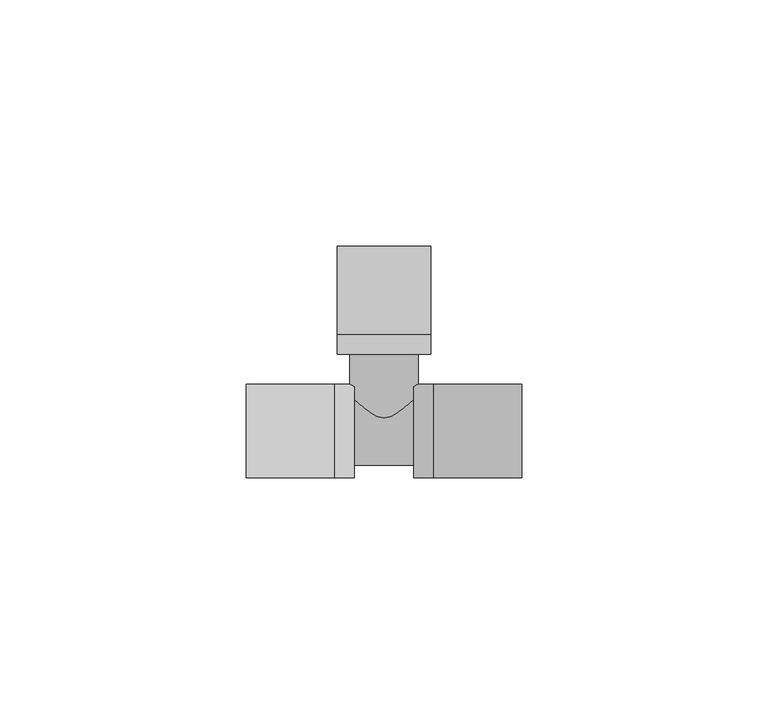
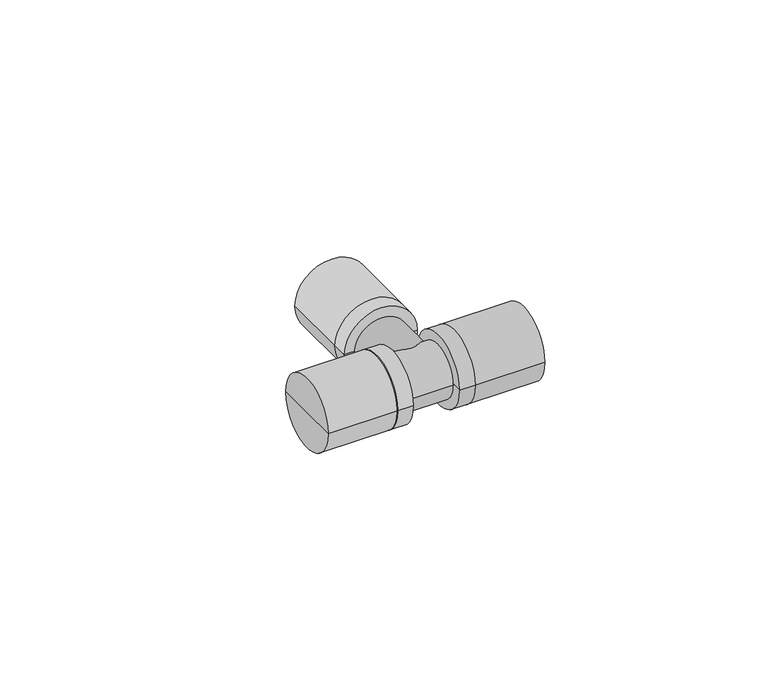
"""IFC4 building model written with IfcOpenShell, lengths in millimetres: pipe fitting geometry, KAN-therm Push trójnik : KAN-therm Push trójnik."""

from ifc_helpers import new_model, si_unit, frame, origin, place, context, project, spatial, circle_curve, source, transform, mapped, element, save
from ifc_brep_helpers import plane_surface, cylinder_surface, advanced_brep


def pipe_fitting_d28a4c85(model_context):
    return source(origin(), model_context, "Body", "AdvancedBrep", [
        advanced_brep(
        [(-9.5, 19.5, 0.0), (0.0, 19.5, 0.0), (9.5, 19.5, 0.0), (-9.5, 15.5, 0.0), (9.5, 15.5, 0.0), (0.0, 15.5, 0.0)],
        [
            (0, 1),
            (1, 2),
            (2, 0, circle_curve(frame((0.0, 19.5, 0.0), z_axis=(0.0, 1.0, 0.0), x_axis=(1.0000000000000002, 0.0, 0.0)), 9.5)),
            (0, 2, circle_curve(frame((0.0, 19.5, 0.0), z_axis=(0.0, 1.0, 0.0), x_axis=(1.0000000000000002, 0.0, 0.0)), 9.5)),
            (3, 0),
            (2, 4),
            (4, 3, circle_curve(frame((0.0, 15.5, 0.0), z_axis=(0.0, 1.0, 0.0), x_axis=(1.0000000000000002, 0.0, 0.0)), 9.5)),
            (3, 4, circle_curve(frame((0.0, 15.5, 0.0), z_axis=(0.0, 1.0, 0.0), x_axis=(1.0000000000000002, 0.0, 0.0)), 9.5)),
            (5, 3),
            (4, 5),
        ],
        [
            plane_surface(frame((0.0, 19.5, 0.0), z_axis=(0.0, 1.0, 0.0), x_axis=(1.0, 0.0, 0.0))),
            cylinder_surface(frame((0.0, 2014.5, 0.0), z_axis=(0.0, -1.0000000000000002, 0.0), x_axis=(1.0000000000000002, 0.0, 0.0)), 9.5),
            plane_surface(frame((0.0, 15.5, 0.0), z_axis=(0.0, -1.0, 0.0), x_axis=(1.0, 0.0, 0.0))),
        ],
        [
            (0, [[1, 2, 3]]),
            (0, [[-2, -1, 4]]),
            (1, [[5, -3, 6, 7]]),
            (1, [[-6, -4, -5, 8]]),
            (2, [[9, -7, 10]]),
            (2, [[-10, -8, -9]]),
        ],
    ),
        advanced_brep(
        [(-9.5, 37.5, 0.0), (0.0, 37.5, 0.0), (9.5, 37.5, 0.0), (-9.5, 19.5, 0.0), (9.5, 19.5, 0.0), (0.0, 19.5, 0.0)],
        [
            (0, 1),
            (1, 2),
            (2, 0, circle_curve(frame((0.0, 37.5, 0.0), z_axis=(0.0, 1.0, 0.0), x_axis=(1.0000000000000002, 0.0, 0.0)), 9.5)),
            (0, 2, circle_curve(frame((0.0, 37.5, 0.0), z_axis=(0.0, 1.0, 0.0), x_axis=(1.0000000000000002, 0.0, 0.0)), 9.5)),
            (3, 0),
            (2, 4),
            (4, 3, circle_curve(frame((0.0, 19.5, 0.0), z_axis=(0.0, 1.0, 0.0), x_axis=(1.0000000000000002, 0.0, 0.0)), 9.5)),
            (3, 4, circle_curve(frame((0.0, 19.5, 0.0), z_axis=(0.0, 1.0, 0.0), x_axis=(1.0000000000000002, 0.0, 0.0)), 9.5)),
            (5, 3),
            (4, 5),
        ],
        [
            plane_surface(frame((0.0, 37.5, 0.0), z_axis=(0.0, 1.0, 0.0), x_axis=(1.0, 0.0, 0.0))),
            cylinder_surface(frame((0.0, 2014.5, 0.0), z_axis=(0.0, -1.0000000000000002, 0.0), x_axis=(1.0000000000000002, 0.0, 0.0)), 9.5),
            plane_surface(frame((0.0, 19.5, 0.0), z_axis=(0.0, -1.0, 0.0), x_axis=(1.0, 0.0, 0.0))),
        ],
        [
            (0, [[1, 2, 3]]),
            (0, [[-2, -1, 4]]),
            (1, [[5, -3, 6, 7]]),
            (1, [[-6, -4, -5, 8]]),
            (2, [[9, -7, 10]]),
            (2, [[-10, -8, -9]]),
        ],
    ),
        advanced_brep(
        [(-10.0, -9.5, 0.0), (-10.0, 0.0, 0.0), (-10.0, 9.5, 0.0), (-6.0, -9.5, 0.0), (-6.0, 9.5, 0.0), (-6.0, 0.0, 0.0)],
        [
            (0, 1),
            (1, 2),
            (2, 0, circle_curve(frame((-10.0, 0.0, 0.0), z_axis=(-1.0, 0.0, 0.0), x_axis=(0.0, 1.0, 0.0)), 9.5)),
            (0, 2, circle_curve(frame((-10.0, 0.0, 0.0), z_axis=(-1.0, 0.0, 0.0), x_axis=(0.0, 1.0, 0.0)), 9.5)),
            (3, 0),
            (2, 4),
            (4, 3, circle_curve(frame((-6.0, 0.0, 0.0), z_axis=(-1.0, 0.0, 0.0), x_axis=(0.0, 1.0, 0.0)), 9.5)),
            (3, 4, circle_curve(frame((-6.0, 0.0, 0.0), z_axis=(-1.0, 0.0, 0.0), x_axis=(0.0, 1.0, 0.0)), 9.5)),
            (5, 3),
            (4, 5),
        ],
        [
            plane_surface(frame((-10.0, 0.0, 0.0), z_axis=(-1.0, 0.0, 0.0), x_axis=(0.0, 1.0, 0.0))),
            cylinder_surface(frame((-2005.0, 0.0, 0.0), z_axis=(1.0, 0.0, 0.0), x_axis=(0.0, 1.0, 0.0)), 9.5),
            plane_surface(frame((-6.0, 0.0, 0.0), z_axis=(1.0, 0.0, 0.0), x_axis=(0.0, 1.0, 0.0))),
        ],
        [
            (0, [[1, 2, 3]]),
            (0, [[-2, -1, 4]]),
            (1, [[5, -3, 6, 7]]),
            (1, [[-6, -4, -5, 8]]),
            (2, [[9, -7, 10]]),
            (2, [[-10, -8, -9]]),
        ],
    ),
        advanced_brep(
        [(-28.0, -9.5, 0.0), (-28.0, 0.0, 0.0), (-28.0, 9.5, 0.0), (-10.0, -9.5, 0.0), (-10.0, 9.5, 0.0), (-10.0, 0.0, 0.0)],
        [
            (0, 1),
            (1, 2),
            (2, 0, circle_curve(frame((-28.0, 0.0, 0.0), z_axis=(-1.0, 0.0, 0.0), x_axis=(0.0, 1.0, 0.0)), 9.5)),
            (0, 2, circle_curve(frame((-28.0, 0.0, 0.0), z_axis=(-1.0, 0.0, 0.0), x_axis=(0.0, 1.0, 0.0)), 9.5)),
            (3, 0),
            (2, 4),
            (4, 3, circle_curve(frame((-10.0, 0.0, 0.0), z_axis=(-1.0, 0.0, 0.0), x_axis=(0.0, 1.0, 0.0)), 9.5)),
            (3, 4, circle_curve(frame((-10.0, 0.0, 0.0), z_axis=(-1.0, 0.0, 0.0), x_axis=(0.0, 1.0, 0.0)), 9.5)),
            (5, 3),
            (4, 5),
        ],
        [
            plane_surface(frame((-28.0, 0.0, 0.0), z_axis=(-1.0, 0.0, 0.0), x_axis=(0.0, 1.0, 0.0))),
            cylinder_surface(frame((-2005.0, 0.0, 0.0), z_axis=(1.0, 0.0, 0.0), x_axis=(0.0, 1.0, 0.0)), 9.5),
            plane_surface(frame((-10.0, 0.0, 0.0), z_axis=(1.0, 0.0, 0.0), x_axis=(0.0, 1.0, 0.0))),
        ],
        [
            (0, [[1, 2, 3]]),
            (0, [[-2, -1, 4]]),
            (1, [[5, -3, 6, 7]]),
            (1, [[-6, -4, -5, 8]]),
            (2, [[9, -7, 10]]),
            (2, [[-10, -8, -9]]),
        ],
    ),
        advanced_brep(
        [(10.0, -9.5, 0.0), (10.0, 9.5, 0.0), (10.0, 0.0, 0.0), (6.0, -9.5, 0.0), (6.0, 9.5, 0.0), (6.0, 0.0, 0.0)],
        [
            (0, 1, circle_curve(frame((10.0, 0.0, 0.0), z_axis=(1.0, 0.0, 0.0), x_axis=(0.0, 1.0, 0.0)), 9.5)),
            (1, 2),
            (2, 0),
            (1, 0, circle_curve(frame((10.0, 0.0, 0.0), z_axis=(1.0, 0.0, 0.0), x_axis=(0.0, 1.0, 0.0)), 9.5)),
            (3, 4, circle_curve(frame((6.0, 0.0, 0.0), z_axis=(1.0, 0.0, 0.0), x_axis=(0.0, 1.0, 0.0)), 9.5)),
            (4, 1),
            (0, 3),
            (4, 3, circle_curve(frame((6.0, 0.0, 0.0), z_axis=(1.0, 0.0, 0.0), x_axis=(0.0, 1.0, 0.0)), 9.5)),
            (5, 4),
            (3, 5),
        ],
        [
            plane_surface(frame((10.0, 0.0, 0.0), z_axis=(1.0, 0.0, 0.0), x_axis=(0.0, 1.0, 0.0))),
            cylinder_surface(frame((2005.0, 0.0, 0.0), z_axis=(-1.0, 0.0, 0.0), x_axis=(0.0, 1.0, 0.0)), 9.5),
            plane_surface(frame((6.0, 0.0, 0.0), z_axis=(-1.0, 0.0, 0.0), x_axis=(0.0, 1.0, 0.0))),
        ],
        [
            (0, [[1, 2, 3]]),
            (0, [[4, -3, -2]]),
            (1, [[5, 6, -1, 7]]),
            (1, [[8, -7, -4, -6]]),
            (2, [[9, -5, 10]]),
            (2, [[-10, -8, -9]]),
        ],
    ),
        advanced_brep(
        [(28.0, -9.5, 0.0), (28.0, 9.5, 0.0), (28.0, 0.0, 0.0), (10.0, -9.5, 0.0), (10.0, 9.5, 0.0), (10.0, 0.0, 0.0)],
        [
            (0, 1, circle_curve(frame((28.0, 0.0, 0.0), z_axis=(1.0, 0.0, 0.0), x_axis=(0.0, 1.0, 0.0)), 9.5)),
            (1, 2),
            (2, 0),
            (1, 0, circle_curve(frame((28.0, 0.0, 0.0), z_axis=(1.0, 0.0, 0.0), x_axis=(0.0, 1.0, 0.0)), 9.5)),
            (3, 4, circle_curve(frame((10.0, 0.0, 0.0), z_axis=(1.0, 0.0, 0.0), x_axis=(0.0, 1.0, 0.0)), 9.5)),
            (4, 1),
            (0, 3),
            (4, 3, circle_curve(frame((10.0, 0.0, 0.0), z_axis=(1.0, 0.0, 0.0), x_axis=(0.0, 1.0, 0.0)), 9.5)),
            (5, 4),
            (3, 5),
        ],
        [
            plane_surface(frame((28.0, 0.0, 0.0), z_axis=(1.0, 0.0, 0.0), x_axis=(0.0, 1.0, 0.0))),
            cylinder_surface(frame((2005.0, 0.0, 0.0), z_axis=(-1.0, 0.0, 0.0), x_axis=(0.0, 1.0, 0.0)), 9.5),
            plane_surface(frame((10.0, 0.0, 0.0), z_axis=(-1.0, 0.0, 0.0), x_axis=(0.0, 1.0, 0.0))),
        ],
        [
            (0, [[1, 2, 3]]),
            (0, [[4, -3, -2]]),
            (1, [[5, 6, -1, 7]]),
            (1, [[8, -7, -4, -6]]),
            (2, [[9, -5, 10]]),
            (2, [[-10, -8, -9]]),
        ],
    ),
        advanced_brep(
        [(10.0, -7.0, 0.0), (10.0, 7.0, 0.0), (10.0, 0.0, 0.0), (-10.0, -7.0, 0.0), (-10.0, 7.0, 0.0), (-10.0, 0.0, 0.0)],
        [
            (0, 1, circle_curve(frame((10.0, 0.0, 0.0), z_axis=(1.0, 0.0, 0.0), x_axis=(0.0, 1.0, 0.0)), 7.0)),
            (1, 2),
            (2, 0),
            (1, 0, circle_curve(frame((10.0, 0.0, 0.0), z_axis=(1.0, 0.0, 0.0), x_axis=(0.0, 1.0, 0.0)), 7.0)),
            (3, 4, circle_curve(frame((-10.0, 0.0, 0.0), z_axis=(1.0, 0.0, 0.0), x_axis=(0.0, 1.0, 0.0)), 7.0)),
            (4, 1),
            (0, 3),
            (4, 3, circle_curve(frame((-10.0, 0.0, 0.0), z_axis=(1.0, 0.0, 0.0), x_axis=(0.0, 1.0, 0.0)), 7.0)),
            (5, 4),
            (3, 5),
        ],
        [
            plane_surface(frame((10.0, 0.0, 0.0), z_axis=(1.0, 0.0, 0.0), x_axis=(0.0, 1.0, 0.0))),
            cylinder_surface(frame((1997.5, 0.0, 0.0), z_axis=(-1.0, 0.0, 0.0), x_axis=(0.0, 1.0, 0.0)), 7.0),
            plane_surface(frame((-10.0, 0.0, 0.0), z_axis=(-1.0, 0.0, 0.0), x_axis=(0.0, 1.0, 0.0))),
        ],
        [
            (0, [[1, 2, 3]]),
            (0, [[4, -3, -2]]),
            (1, [[5, 6, -1, 7]]),
            (1, [[8, -7, -4, -6]]),
            (2, [[9, -5, 10]]),
            (2, [[-10, -8, -9]]),
        ],
    ),
        advanced_brep(
        [(-7.0, 0.0, 0.0), (7.0, 0.0, 0.0), (0.0, 0.0, 0.0), (-7.0, 19.5, 0.0), (7.0, 19.5, 0.0), (0.0, 19.5, 0.0)],
        [
            (0, 1, circle_curve(frame((0.0, 0.0, 0.0), z_axis=(0.0, -1.0, 0.0), x_axis=(1.0, 0.0, 0.0)), 7.0)),
            (1, 2),
            (2, 0),
            (1, 0, circle_curve(frame((0.0, 0.0, 0.0), z_axis=(0.0, -1.0, 0.0), x_axis=(1.0, 0.0, 0.0)), 7.0)),
            (3, 4, circle_curve(frame((0.0, 19.5, 0.0), z_axis=(0.0, -1.0, 0.0), x_axis=(1.0, 0.0, 0.0)), 7.0)),
            (4, 1),
            (0, 3),
            (4, 3, circle_curve(frame((0.0, 19.5, 0.0), z_axis=(0.0, -1.0, 0.0), x_axis=(1.0, 0.0, 0.0)), 7.0)),
            (5, 4),
            (3, 5),
        ],
        [
            plane_surface(frame((0.0, 0.0, 0.0), z_axis=(0.0, -1.0, 0.0), x_axis=(1.0, 0.0, 0.0))),
            cylinder_surface(frame((0.0, 2001.5, 0.0), z_axis=(0.0, 1.0, 0.0), x_axis=(1.0, 0.0, 0.0)), 7.0),
            plane_surface(frame((0.0, 19.5, 0.0), z_axis=(0.0, 1.0, 0.0), x_axis=(1.0, 0.0, 0.0))),
        ],
        [
            (0, [[1, 2, 3]]),
            (0, [[4, -3, -2]]),
            (1, [[5, 6, -1, 7]]),
            (1, [[8, -7, -4, -6]]),
            (2, [[9, -5, 10]]),
            (2, [[-10, -8, -9]]),
        ],
    ),
    ])


if __name__ == "__main__":
    model = new_model("IFC4")
    model_context = context("Model", 3, world=origin())
    ifc_project = project(units=[si_unit("LENGTHUNIT", "METRE", prefix="MILLI")], contexts=[model_context])
    site = spatial("IfcSite", under=ifc_project)
    building = spatial("IfcBuilding", under=site)
    placement = place(None, origin())
    pipe_fitting_shape = pipe_fitting_d28a4c85(model_context)
    element("IfcPipeFitting", 1, ObjectType="KAN-therm Push trójnik : KAN-therm Push trójnik", at=placement, inside=building, context=model_context, shape_type="MappedRepresentation", body=[
        mapped(pipe_fitting_shape, transform((0.0, 0.0, 0.0), x_axis=(1.0, 0.0, 0.0), y_axis=(0.0, 1.0, 0.0), z_axis=(0.0, 0.0, 1.0))),
    ])
    save(model, "model.ifc")
